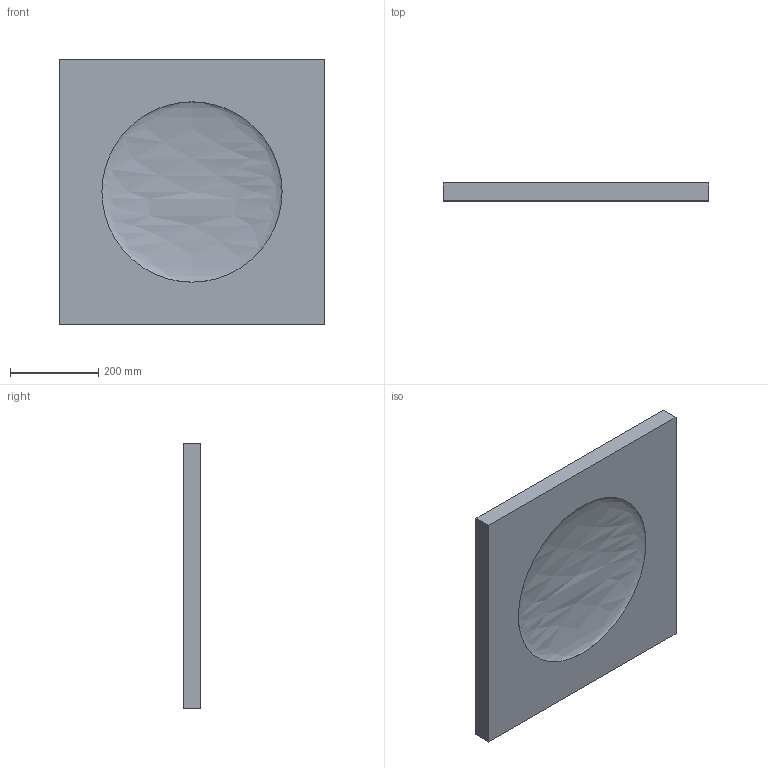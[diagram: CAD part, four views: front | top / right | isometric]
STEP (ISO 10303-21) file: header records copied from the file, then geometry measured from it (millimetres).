
FILE_DESCRIPTION(/* description */ (''),/* implementation_level */ '2;1');
FILE_NAME(/* name */ 'Sculpt Wall Art Void',/* time_stamp */ '2021-06-09T10:29:16+02:00',/* author */ (''),/* organization */ (''),/* preprocessor_version */ 'ST-DEVELOPER v15',/* originating_system */ '',/* authorisation */ '');
FILE_SCHEMA (('AUTOMOTIVE_DESIGN'));
Length unit declared in the file: millimetre
Products named in the file (1): Document
Bounding box: 600 x 40 x 600 mm (x, y, z)
Volume: 12659903.9 mm3; surface area: 819989.4 mm2
Topology: 1 solids, 1 shells, 7 faces, 16 edges, 10 vertices
Faces by surface type: plane 6, bspline 1
Entity records: 227 total; most frequent: CARTESIAN_POINT 97, ORIENTED_EDGE 28, EDGE_CURVE 14, B_SPLINE_CURVE_WITH_KNOTS 12, VERTEX_POINT 10, DIRECTION 10, EDGE_LOOP 8, AXIS2_PLACEMENT_3D 8
